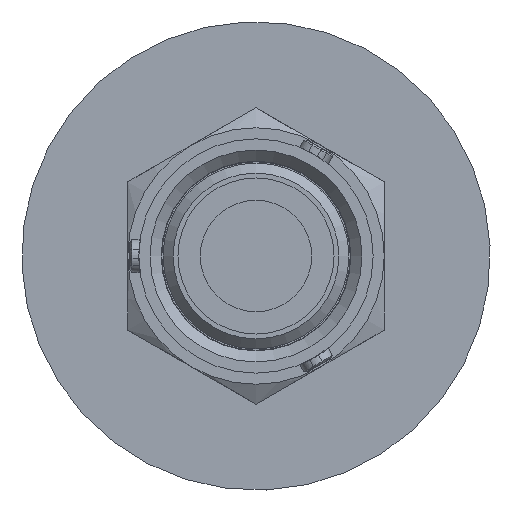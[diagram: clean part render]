
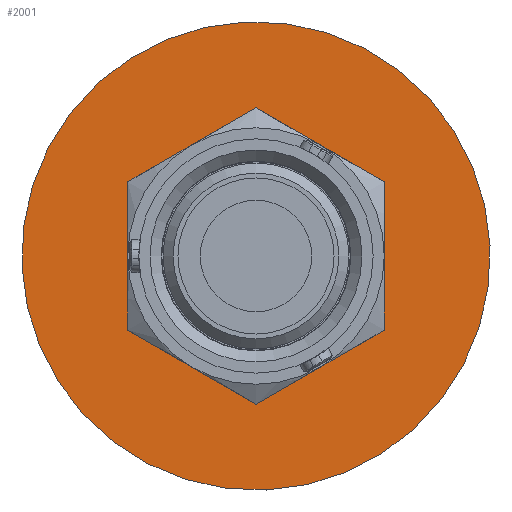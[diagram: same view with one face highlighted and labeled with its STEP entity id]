
A CAD part, front view. The second image highlights one B-rep face of the part: STEP entity #2001.
In plain terms, the highlighted planar face has unit normal (0, -1, 0).
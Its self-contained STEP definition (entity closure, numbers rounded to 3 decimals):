
#29 = EDGE_CURVE ( 'NONE', #2437, #2437, #1413, .T. ) ;
#281 = FACE_OUTER_BOUND ( 'NONE', #1481, .T. ) ;
#325 = CARTESIAN_POINT ( 'NONE',  ( 0., 190., 11.499 ) ) ;
#480 = CARTESIAN_POINT ( 'NONE',  ( 15.585, 190., 0.681 ) ) ;
#552 = CARTESIAN_POINT ( 'NONE',  ( 0., 190., 0. ) ) ;
#734 = DIRECTION ( 'NONE',  ( -0.999, 0., -0.044 ) ) ;
#749 = CARTESIAN_POINT ( 'NONE',  ( 0., 190., 0. ) ) ;
#834 = PLANE ( 'NONE',  #1475 ) ;
#881 = DIRECTION ( 'NONE',  ( 0., 0., 1. ) ) ;
#955 = AXIS2_PLACEMENT_3D ( 'NONE', #749, #1670, #734 ) ;
#1014 = EDGE_LOOP ( 'NONE', ( #1448 ) ) ;
#1042 = FACE_BOUND ( 'NONE', #1014, .T. ) ;
#1413 = CIRCLE ( 'NONE', #1727, 11.499 ) ;
#1448 = ORIENTED_EDGE ( 'NONE', *, *, #29, .T. ) ;
#1475 = AXIS2_PLACEMENT_3D ( 'NONE', #480, #1971, #1996 ) ;
#1481 = EDGE_LOOP ( 'NONE', ( #1708 ) ) ;
#1508 = VERTEX_POINT ( 'NONE', #2299 ) ;
#1670 = DIRECTION ( 'NONE',  ( 0., 1., 0. ) ) ;
#1679 = EDGE_CURVE ( 'NONE', #1508, #1508, #2486, .T. ) ;
#1708 = ORIENTED_EDGE ( 'NONE', *, *, #1679, .F. ) ;
#1727 = AXIS2_PLACEMENT_3D ( 'NONE', #552, #2061, #881 ) ;
#1971 = DIRECTION ( 'NONE',  ( 0., 1., 0. ) ) ;
#1996 = DIRECTION ( 'NONE',  ( -0.999, 0., -0.044 ) ) ;
#2001 = ADVANCED_FACE ( 'NONE', ( #1042, #281 ), #834, .F. ) ;
#2061 = DIRECTION ( 'NONE',  ( 0., 1., 0. ) ) ;
#2299 = CARTESIAN_POINT ( 'NONE',  ( -20.98, 190., -0.916 ) ) ;
#2437 = VERTEX_POINT ( 'NONE', #325 ) ;
#2486 = CIRCLE ( 'NONE', #955, 21. ) ;
